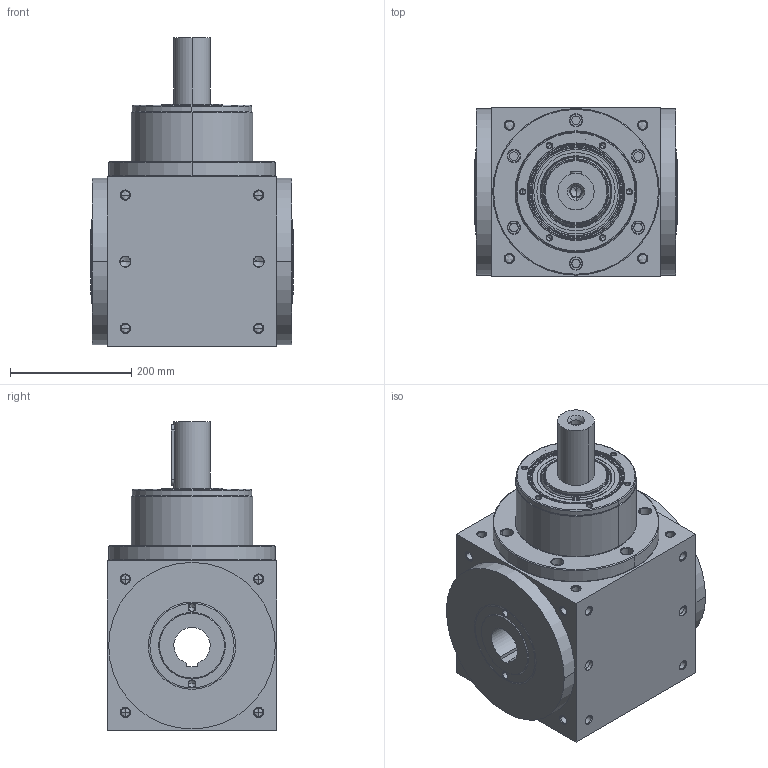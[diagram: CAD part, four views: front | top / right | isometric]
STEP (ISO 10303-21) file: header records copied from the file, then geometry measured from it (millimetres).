
FILE_DESCRIPTION((''),'2;1');
FILE_NAME('ATB280H-1_ASM','2015-01-14T',('d01834'),(''),'PRO/ENGINEER BY PARAMETRIC TECHNOLOGY CORPORATION, 2008410','PRO/ENGINEER BY PARAMETRIC TECHNOLOGY CORPORATION, 2008410','');
FILE_SCHEMA(('CONFIG_CONTROL_DESIGN'));
Length unit declared in the file: millimetre
Products named in the file (6): ATB280H-1; P1820A00001; 22400071010; P0904A01001; P1208A00001; ATB280H-1_ASM
Assembly tree (5 placements, depth 2):
  ATB280H-1_ASM
    ATB280H-1
    P1820A00001
    22400071010
    P0904A01001
    P1208A00001
Bounding box: 334 x 280 x 510 mm (x, y, z)
Volume: 26732845.6 mm3; surface area: 1028837.2 mm2
Topology: 6 solids, 38 shells, 632 faces, 1553 edges, 918 vertices
Faces by surface type: cylinder 271, cone 240, plane 81, torus 40
Entity records: 19012 total; most frequent: CARTESIAN_POINT 4030, DIRECTION 3375, ORIENTED_EDGE 2826, EDGE_CURVE 1477, AXIS2_PLACEMENT_3D 1415, VERTEX_POINT 918, CIRCLE 764, EDGE_LOOP 751
